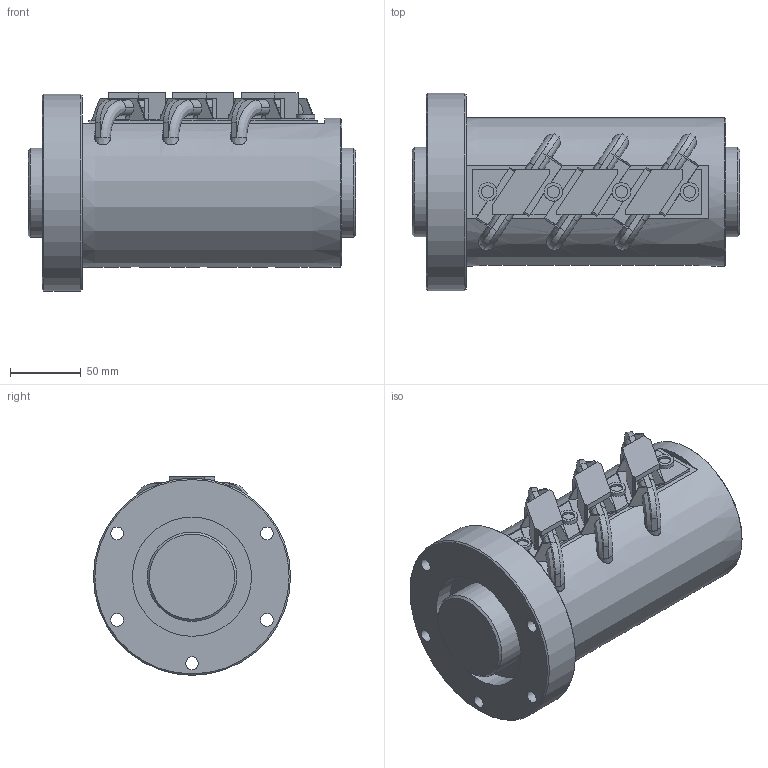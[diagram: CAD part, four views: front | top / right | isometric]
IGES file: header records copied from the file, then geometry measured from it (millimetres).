
Start section: Data from Parasolid IGES Translator 26.0.171, Copyright(c) 2006 Siemens PLM Software. All Rights Reserved.
Global section: file name: HBN6316-7.5RRG2+231LC0(0G200)_rev.igs; native system: By Siemens PLM Incorporated; preprocessor: XPlus GENERIC/IGES 26.0.171; author: Noname; organization: Noname; date: 20240704.081802; units: millimetre
Bounding box: 231 x 139 x 140 mm (x, y, z)
Surface area: 223948.6 mm2 (no closed solid volume)
Topology: 0 solids, 0 shells, 253 faces, 1523 edges, 1477 vertices
Faces by surface type: extrusion 189, revolution 64
